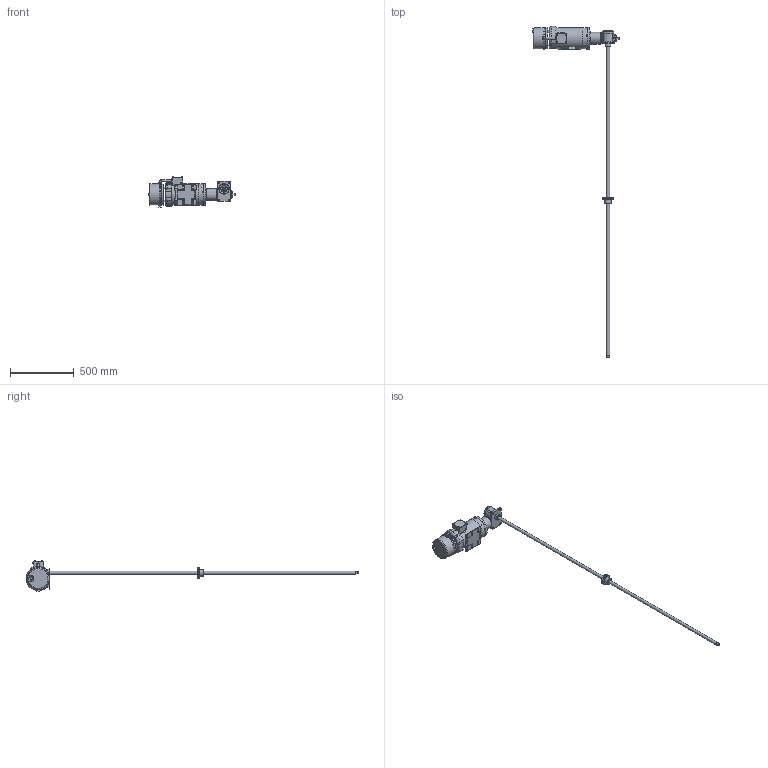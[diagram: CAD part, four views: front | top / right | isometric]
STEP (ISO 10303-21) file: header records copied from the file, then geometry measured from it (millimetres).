
FILE_DESCRIPTION(/* description */ ('STEP AP242','CAx-IF Rec.Pracs.---Representation and Presentation of Product Manufacturing Information (PMI)---4.0---2014-10-13','CAx-IF Rec.Pracs.---3D Tessellated Geometry---0.4---2014-09-14','2;1'),/* implementation_level */ '2;1');
FILE_NAME(/* name */ '2.5-MSJ-IR 6_1_20LT-1_SSE-2_FA_96.00_S',/* time_stamp */ '2026-03-06T00:31:33+01:00',/* author */ ('License CC BY-ND 4.0'),/* organization */ ('CADENAS'),/* preprocessor_version */ 'ST-DEVELOPER v20',/* originating_system */ 'PARTsolutions',/* authorisation */ ' ');
FILE_SCHEMA (('AP242_MANAGED_MODEL_BASED_3D_ENGINEERING_MIM_LF { 1 0 10303 442 1 1 4 }'));
Length unit declared in the file: inch
Products named in the file (6): 2.5-MSJ-IR 6:1/20LT-1/SSE-2/FA/96.00/S; 2.5-MSJ-IR-MM-SSE92.3192.31; 2.5-MSJX05; 20LT; 2.5-MSJ-IR92.3192.31urir_ls; 2.5-MSJ-IRmsj_i
Assembly tree (5 placements, depth 2):
  2.5-MSJ-IR 6:1/20LT-1/SSE-2/FA/96.00/S
    2.5-MSJ-IR-MM-SSE92.3192.31
    2.5-MSJX05
    20LT
    2.5-MSJ-IR92.3192.31urir_ls
    2.5-MSJ-IRmsj_i
Bounding box: 678.56 x 2597.73 x 236.73 mm (x, y, z)
Volume: 12659989.5 mm3; surface area: 822380.8 mm2
Topology: 5 solids, 6 shells, 654 faces, 1685 edges, 1104 vertices
Faces by surface type: plane 364, cylinder 190, torus 54, cone 46
Full cylindrical faces by diameter (mm): 0.671 x1, 6.35 x4, 7.137 x4, 7.874 x4, 7.925 x4, 8.89 x4, 10.16 x2, 10.319 x4, 10.414 x9, 10.998 x4, 12.344 x4, 12.7 x1, 13.97 x3, 15.875 x1, 16.256 x4, 18.034 x1, 19.05 x1, 22.352 x1, 25.4 x3, 31.242 x1, 38.1 x1, 39.878 x1, 44.45 x1, 50.8 x1, 76.2 x1, 78.994 x1, 82.55 x1, 95.25 x1, 114.3 x2, 165.76 x1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
Entity records: 20728 total; most frequent: CARTESIAN_POINT 4103, DIRECTION 3211, ORIENTED_EDGE 3108, EDGE_CURVE 1554, AXIS2_PLACEMENT_3D 1201, VERTEX_POINT 1072, EDGE_LOOP 872, FACE_BOUND 872
